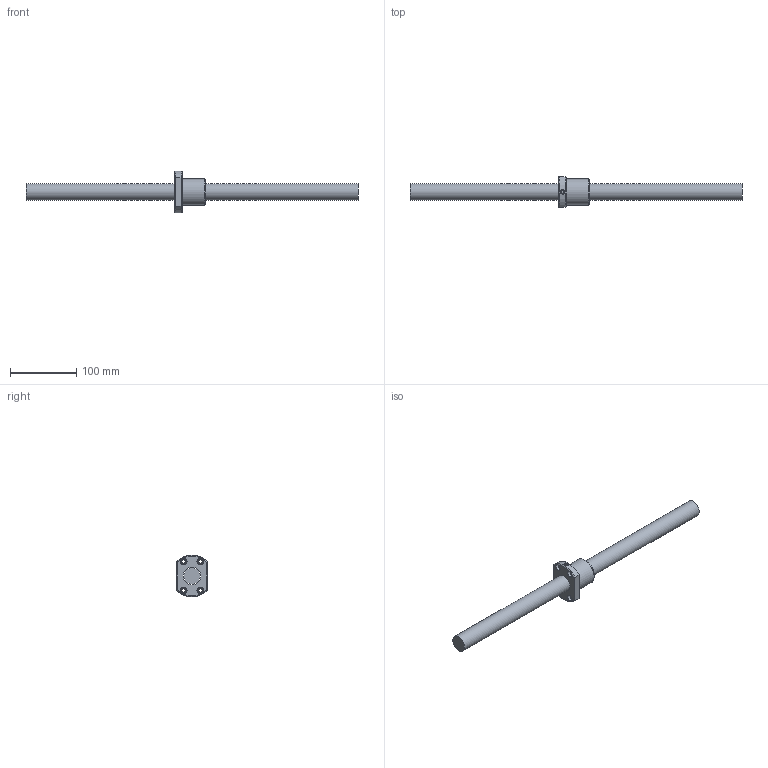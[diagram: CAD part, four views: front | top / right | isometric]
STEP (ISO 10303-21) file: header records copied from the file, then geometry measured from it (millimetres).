
FILE_DESCRIPTION (( 'STEP AP203' ), '1' );
FILE_NAME ('SFI02504D-4.step', '2024-05-16T02:27:44', ( '' ), ( '' ), 'SwSTEP 2.0', 'SolidWorks 2022', '' );
FILE_SCHEMA (( 'CONFIG_CONTROL_DESIGN' ));
Length unit declared in the file: millimetre
Products named in the file (1): SFI02504D-4
Bounding box: 500 x 46 x 63 mm (x, y, z)
Volume: 289965.8 mm3; surface area: 55506.1 mm2
Topology: 2 solids, 2 shells, 56 faces, 142 edges, 91 vertices
Faces by surface type: cylinder 21, plane 16, cone 9, bspline 5, torus 5
Full cylindrical faces by diameter (mm): 4 x1, 5 x6, 5.5 x4, 9.5 x4, 25 x1, 26.6 x1, 40 x1
Entity records: 3278 total; most frequent: CARTESIAN_POINT 2192, DIRECTION 198, ORIENTED_EDGE 182, AXIS2_PLACEMENT_3D 91, EDGE_CURVE 91, EDGE_LOOP 86, VERTEX_POINT 71, FACE_OUTER_BOUND 64
